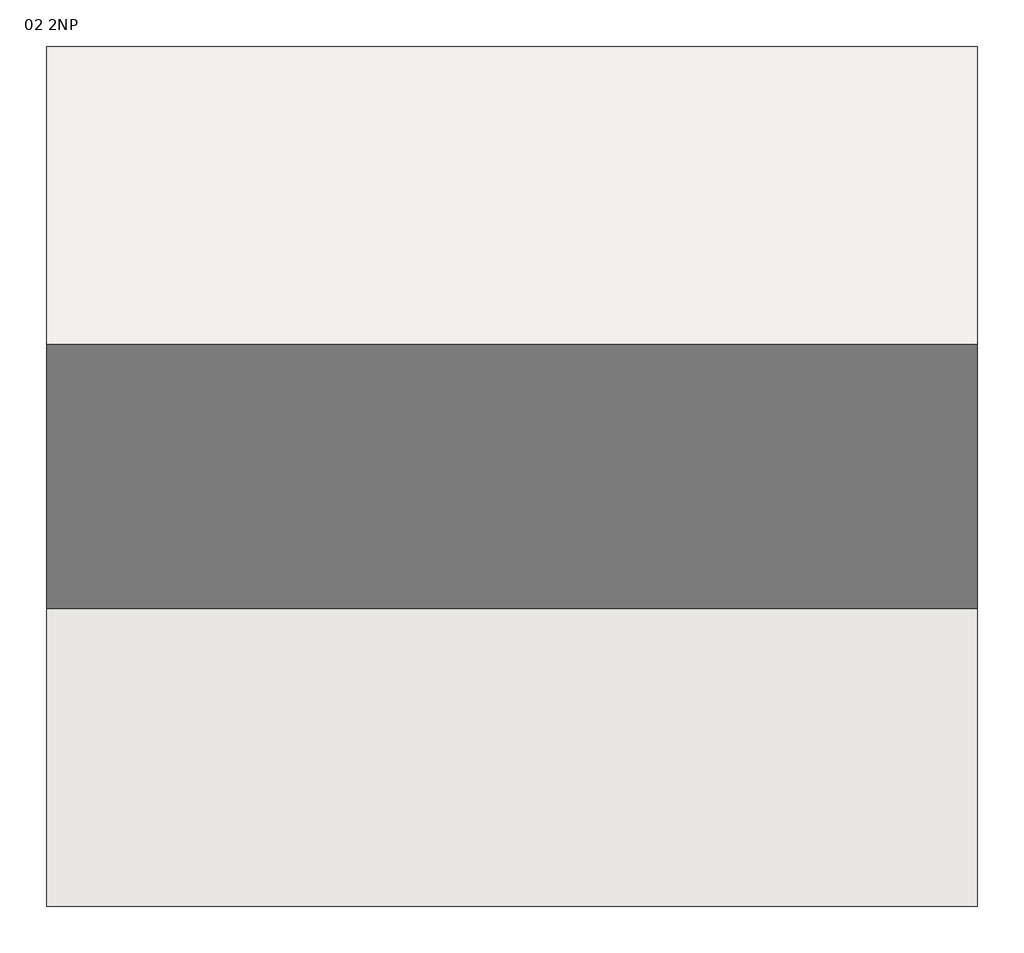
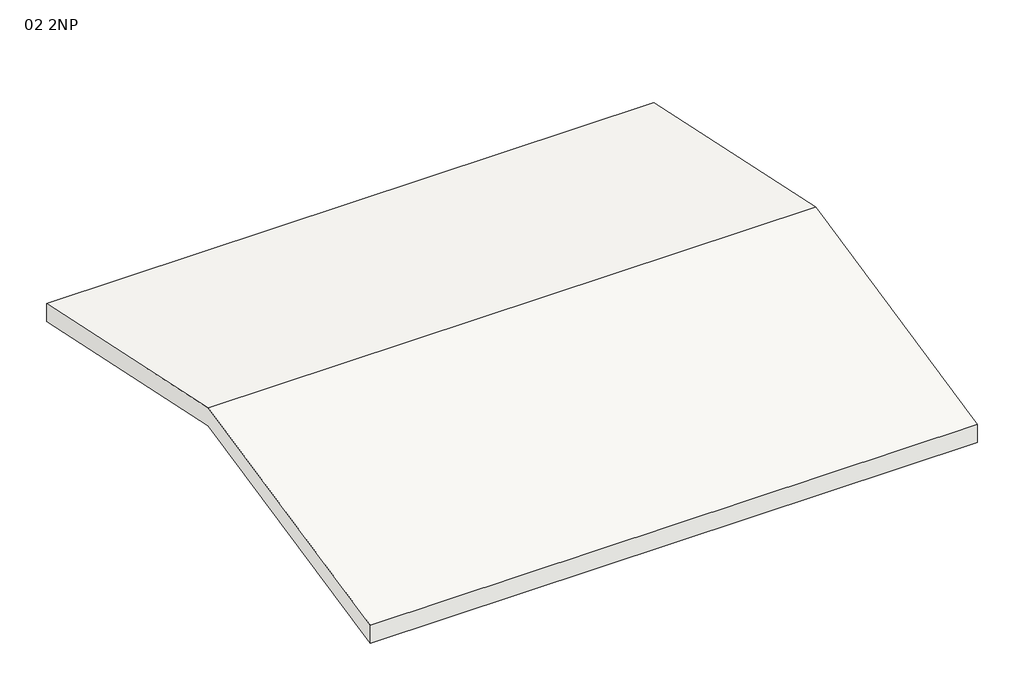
# One storey: 1 roof.
"""IFC4 building model written with IfcOpenShell, lengths in millimetres."""

from ifc_helpers import new_model, si_unit, frame, origin, place, context, project, spatial, polyline, outline, extrude, element, save

model = new_model("IFC4")

# Units and contexts
model_context = context("Model", 3, world=origin())
ifc_project = project(units=[si_unit("LENGTHUNIT", "METRE", prefix="MILLI")], contexts=[model_context])

# Site, building, storey
site = spatial("IfcSite", under=ifc_project)
building = spatial("IfcBuilding", under=site)
storey = spatial("IfcBuildingStorey", under=building, Name="02 2NP", Elevation=3000.0)

# Roof
placement = place(None, origin())
element("IfcRoof", 1, ObjectType="Střecha 400mm", at=placement, inside=storey, context=model_context, shape_type="SweptSolid", body=[
    extrude(outline(polyline([(7172.9392228, 3302.6579571), (13272.9392228, 4599.2529833), (19372.9392228, 3302.6579571), (19372.9392228, 2893.7217191), (13272.9392228, 4190.3167453), (7172.9392228, 2893.7217191), (7172.9392228, 3302.6579571)])), frame((30296.7666006, 0.0, 0.0), z_axis=(1.0, 0.0, 0.0), x_axis=(0.0, 1.0, 0.0)), (0.0, 0.0, 1.0), 13200.0),
])

save(model, "model.ifc")
